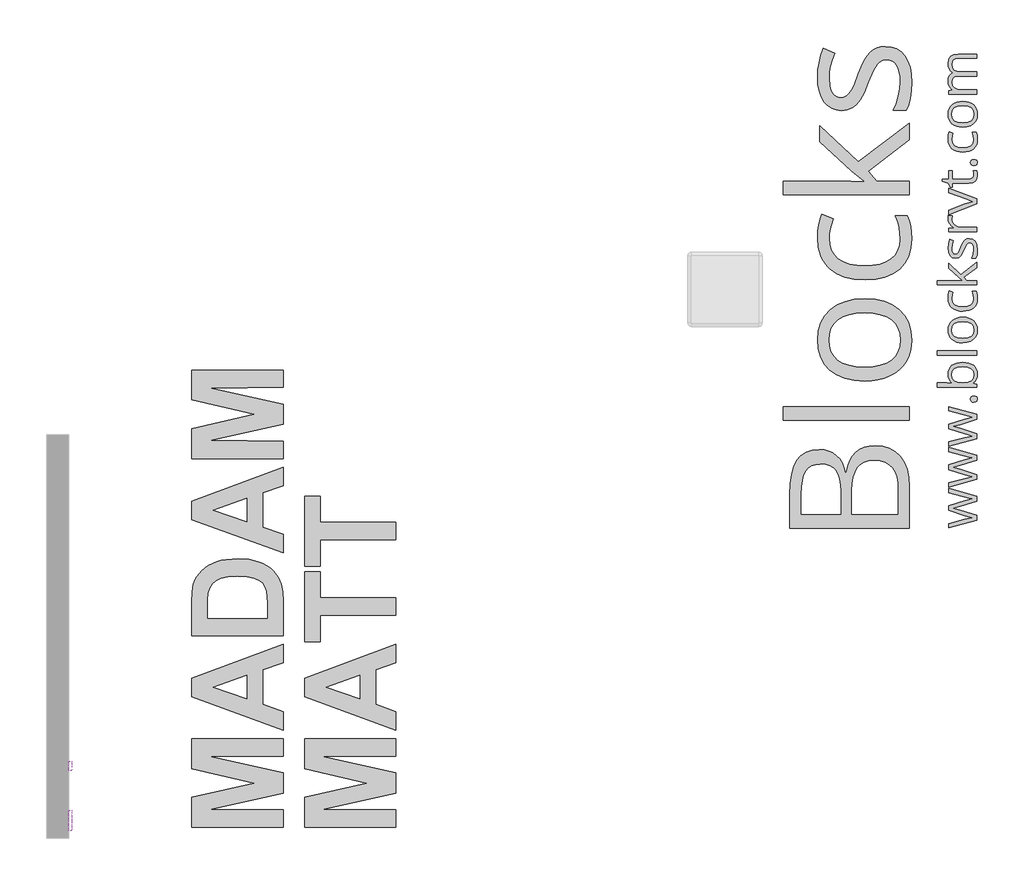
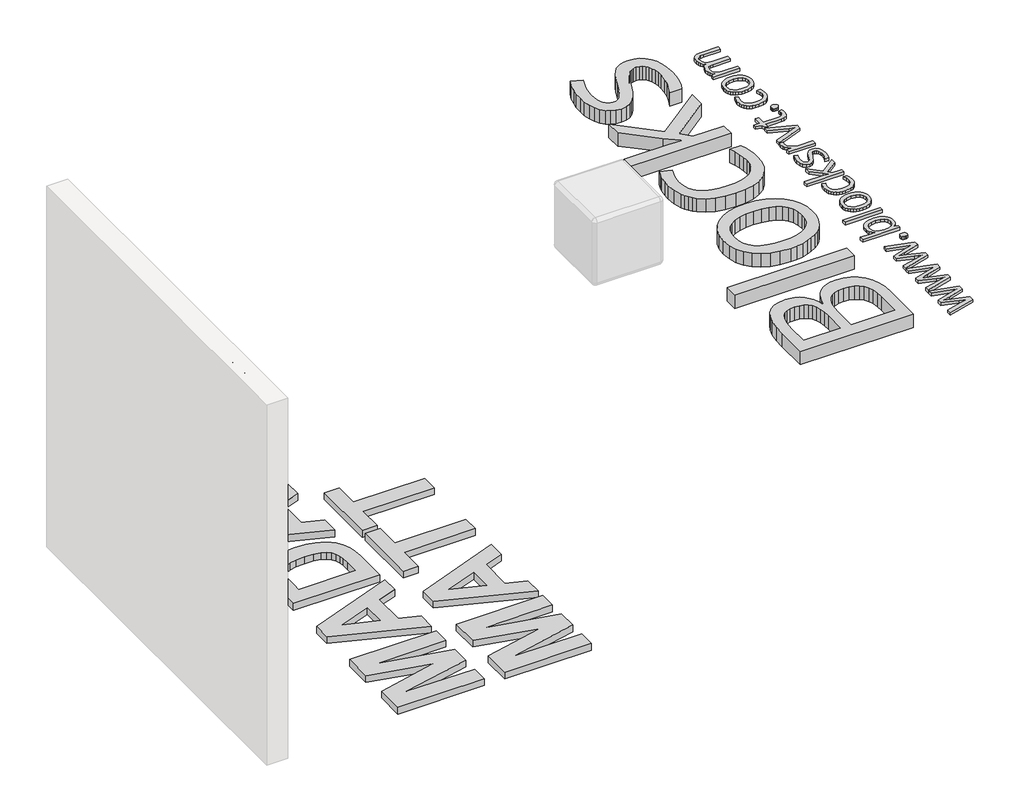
# One storey, part 7 of 7: 5 proxies.
"""IFC4 building model written with IfcOpenShell, lengths in millimetres."""

import ifcopenshell
import ifcopenshell.guid

model = None  # the IFC model being written
_history = None  # IfcOwnerHistory: only IFC2X3 demands one
_inside = {}  # id of a spatial element -> (the spatial element, [elements in it])
_under = {}  # id of a project, library or spatial element -> (it, [spatial elements below it])
_declared = {}  # id of a project -> (the project, [libraries it declares])
_typed = {}  # id of a type object -> (the type object, [elements of that type])
_made_of = {}  # id of a material, layer set ... -> (it, [elements and type objects made of it])


def new_model(schema):
    """Start an empty IFC model of exactly this schema.

    Asked for "IFC4X3", IfcOpenShell would pick the latest addendum, in which some entities
    have other attributes; the version numbers below select the first issue.
    IFC2X3 requires an IfcOwnerHistory on every rooted entity: one is made here for all.
    """
    global model, _history
    if schema == "IFC4X3":
        model = ifcopenshell.file(schema_version=(4, 3, 0, 0))
    else:
        model = ifcopenshell.file(schema=schema)
    _inside.clear()
    _under.clear()
    _declared.clear()
    _typed.clear()
    _made_of.clear()
    _history = None
    if model.schema == "IFC2X3":
        org = make("IfcOrganization", Name="unknown")
        user = make(
            "IfcPersonAndOrganization",
            ThePerson=make("IfcPerson", FamilyName="unknown"),
            TheOrganization=org,
        )
        app = make(
            "IfcApplication",
            ApplicationDeveloper=org,
            Version="unknown",
            ApplicationFullName="unknown",
            ApplicationIdentifier="unknown",
        )
        _history = make(
            "IfcOwnerHistory",
            OwningUser=user,
            OwningApplication=app,
            ChangeAction="ADDED",
            CreationDate=0,
        )
    return model


def make(cls, **values):
    """One entity of the class cls with the attributes given. An attribute that is None is left unset."""
    return model.create_entity(
        cls, **{name: value for name, value in values.items() if value is not None}
    )


def rooted(cls, **values):
    """An entity with a GlobalId (a new one), such as an element, a storey or a relation."""
    return make(cls, GlobalId=ifcopenshell.guid.new(), OwnerHistory=_history, **values)


def si_unit(unit_type, name, prefix=None):
    """IfcSIUnit, for example si_unit("LENGTHUNIT", "METRE", prefix="MILLI")."""
    return make("IfcSIUnit", UnitType=unit_type, Prefix=prefix, Name=name)


def assignment(units):
    """IfcUnitAssignment: the units of a project."""
    return None if units is None else make("IfcUnitAssignment", Units=units)


def point(xyz):
    """IfcCartesianPoint."""
    return None if xyz is None else make("IfcCartesianPoint", Coordinates=xyz)


def direction(xyz):
    """IfcDirection."""
    return None if xyz is None else make("IfcDirection", DirectionRatios=xyz)


def frame(location, z_axis=None, x_axis=None):
    """IfcAxis2Placement3D, a coordinate frame: its origin and axes. An axis left out is left unset."""
    return make(
        "IfcAxis2Placement3D",
        Location=point(location),
        Axis=direction(z_axis),
        RefDirection=direction(x_axis),
    )


def origin():
    """The frame at (0, 0, 0) with its axes left unset."""
    return frame((0.0, 0.0, 0.0))


def origin_with_axes():
    """The frame at (0, 0, 0) with the z axis (0, 0, 1) and the x axis (1, 0, 0) written out."""
    return frame((0.0, 0.0, 0.0), z_axis=(0.0, 0.0, 1.0), x_axis=(1.0, 0.0, 0.0))


def place(relative_to, where):
    """IfcLocalPlacement: puts the frame where relative to a parent placement (None: the world)."""
    return make(
        "IfcLocalPlacement", PlacementRelTo=relative_to, RelativePlacement=where
    )


def context(
    kind, dimensions, precision=None, world=None, true_north=None, identifier=None
):
    """IfcGeometricRepresentationContext, for example the 3D "Model" context."""
    return make(
        "IfcGeometricRepresentationContext",
        ContextIdentifier=identifier,
        ContextType=kind,
        CoordinateSpaceDimension=dimensions,
        Precision=precision,
        WorldCoordinateSystem=world,
        TrueNorth=true_north,
    )


def project(units=None, contexts=None):
    """IfcProject with its units and contexts."""
    return rooted(
        "IfcProject",
        Name="project",
        RepresentationContexts=contexts,
        UnitsInContext=assignment(units),
    )


def spatial(cls, under=None, at=None, **own):
    """A site, building, storey or space (cls), placed at a placement, below another one or the project."""
    s = rooted(cls, ObjectPlacement=at, **own)
    if under is not None:
        _under.setdefault(under.id(), (under, []))[1].append(s)
    return s


def polyline(points):
    """IfcPolyline through the points."""
    return make("IfcPolyline", Points=[point(p) for p in points])


def outline(outer, holes=None, kind="AREA"):
    """IfcArbitraryClosedProfileDef: a profile drawn as a closed curve; with holes, ...WithVoids."""
    if holes is None:
        return make("IfcArbitraryClosedProfileDef", ProfileType=kind, OuterCurve=outer)
    return make(
        "IfcArbitraryProfileDefWithVoids",
        ProfileType=kind,
        OuterCurve=outer,
        InnerCurves=holes,
    )


def extrude(swept, where, along, depth):
    """IfcExtrudedAreaSolid: the profile swept, set in the frame where, extruded along a direction by depth."""
    return make(
        "IfcExtrudedAreaSolid",
        SweptArea=swept,
        Position=where,
        ExtrudedDirection=direction(along),
        Depth=depth,
    )


def shape(context_of_items, identifier, shape_type, items):
    """IfcShapeRepresentation: the items that make up one representation, for example the "Body"."""
    return make(
        "IfcShapeRepresentation",
        ContextOfItems=context_of_items,
        RepresentationIdentifier=identifier,
        RepresentationType=shape_type,
        Items=items,
    )


def made_of(thing, what):
    """Note that an element or type object is made of a material, layer set ...; save() writes the relation."""
    if what is not None:
        _made_of.setdefault(what.id(), (what, []))[1].append(thing)
    return thing


def element(
    cls,
    number,
    at=None,
    inside=None,
    cuts=None,
    type_object=None,
    material=None,
    context=None,
    identifier="Body",
    shape_type=None,
    held_by="IfcProductDefinitionShape",
    body=None,
    shapes=None,
    **own,
):
    """One element of the class cls, such as IfcWall. Its Tag is "e" and its number.

    at: its placement. inside: the storey or other place that contains it. cuts: it is an
    opening in that element (IfcRelVoidsElement). A single representation is given by context,
    identifier, shape_type and body (its items); several are given by shapes. held_by: the class
    of the entity that holds the representations. save() writes the other relations.
    """
    e = rooted(cls, Tag="e%d" % number, ObjectPlacement=at, **own)
    if body is not None:
        shapes = [shape(context, identifier, shape_type, body)]
    if shapes is not None:
        e.Representation = make(held_by, Representations=shapes)
    if inside is not None:
        _inside.setdefault(inside.id(), (inside, []))[1].append(e)
    if cuts is not None:
        rooted(
            "IfcRelVoidsElement", RelatingBuildingElement=cuts, RelatedOpeningElement=e
        )
    if type_object is not None:
        _typed.setdefault(type_object.id(), (type_object, []))[1].append(e)
    return made_of(e, material)


def aggregate(whole, parts):
    """IfcRelAggregates: a whole, such as a stair, and the parts it consists of."""
    return rooted("IfcRelAggregates", RelatingObject=whole, RelatedObjects=parts)


def save(model, path):
    """Write the relations noted so far, then the file.

    IfcRelAggregates (storeys below a building ...), IfcRelContainedInSpatialStructure (elements
    in a storey), IfcRelDefinesByType, IfcRelAssociatesMaterial and IfcRelDeclares: one each for
    every whole, place, type object, material and project.
    """
    for whole, parts in _under.values():
        aggregate(whole, parts)
    for where, things in _inside.values():
        rooted(
            "IfcRelContainedInSpatialStructure",
            RelatedElements=things,
            RelatingStructure=where,
        )
    for kind, things in _typed.values():
        rooted("IfcRelDefinesByType", RelatedObjects=things, RelatingType=kind)
    for what, things in _made_of.values():
        rooted("IfcRelAssociatesMaterial", RelatedObjects=things, RelatingMaterial=what)
    for by, libraries in _declared.values():
        rooted("IfcRelDeclares", RelatingContext=by, RelatedDefinitions=libraries)
    model.write(path)


model = new_model("IFC4")

# Units and contexts
model_context = context("Model", 3, world=origin())
ifc_project = project(units=[si_unit("LENGTHUNIT", "METRE", prefix="MILLI")], contexts=[model_context])

# Site, building, storey
site = spatial("IfcSite", under=ifc_project)
building = spatial("IfcBuilding", under=site)
storey = spatial("IfcBuildingStorey", under=building, Name="PORTOBELLO - SHOWROOM", Elevation=0.0)

# Proxies
placement = place(None, origin())
element("IfcBuildingElementProxy", 1, Name="10mm Arial", ObjectType="10mm Arial", at=placement, inside=storey, context=model_context, shape_type="SweptSolid", body=[
    extrude(outline(polyline([(10451.9550185, 2553.8086596), (10424.5600726, 2654.2649698), (10437.5095189, 2654.2649698), (10453.402021, 2588.2424144), (10458.3071143, 2567.8617518), (10463.5555641, 2585.8879696), (10483.4702428, 2654.2649698), (10502.1341227, 2654.2649698), (10516.6041478, 2604.6990023), (10527.3708275, 2567.8617518), (10532.128768, 2587.6538032), (10548.168423, 2654.2649698), (10561.1178692, 2654.2649698), (10533.6983979, 2553.8086596), (10520.2829678, 2553.8086596), (10496.1989598, 2631.3091333), (10492.8389709, 2642.1248639), (10489.0620491, 2629.1018413), (10467.1117567, 2553.8086596), (10451.9550185, 2553.8086596)])), frame((40576.625413, 0.0, 0.0), z_axis=(1.0, 0.0, 0.0), x_axis=(0.0, 1.0, 0.0)), (0.0, 0.0, 1.0), 20.0),
    extrude(outline(polyline([(10572.1052782, 2553.8086596), (10572.1052782, 2654.2649698), (10584.6623169, 2654.2649698), (10584.6623169, 2617.3296175), (10594.4541094, 2626.1955735), (10606.5145074, 2629.1508922), (10620.6166506, 2625.9257934), (10629.1760383, 2617.0107864), (10631.7512123, 2600.5051475), (10631.7512123, 2553.8086596), (10619.1941735, 2553.8086596), (10619.1941735, 2599.2052978), (10615.1965225, 2612.4490497), (10603.8657571, 2616.5938535), (10593.5773239, 2613.7979503), (10586.7101934, 2606.2195812), (10584.6623169, 2593.0003548), (10584.6623169, 2553.8086596), (10572.1052782, 2553.8086596)])), frame((40576.625413, 0.0, 0.0), z_axis=(1.0, 0.0, 0.0), x_axis=(0.0, 1.0, 0.0)), (0.0, 0.0, 1.0), 20.0),
    extrude(outline(polyline([(40596.625413, 10661.5741794), (40596.625413, 10649.0171406), (40576.625413, 10649.0171406), (40576.625413, 10661.5741794), (40596.625413, 10661.5741794)])), frame((0.0, 0.0, 2641.707931), z_axis=(0.0, 0.0, 1.0), x_axis=(1.0, 0.0, 0.0)), (0.0, 0.0, 1.0), 12.5570388),
    extrude(outline(polyline([(40596.625413, 10661.5741794), (40596.625413, 10649.0171406), (40576.625413, 10649.0171406), (40576.625413, 10661.5741794), (40596.625413, 10661.5741794)])), frame((0.0, 0.0, 2553.8086596), z_axis=(0.0, 0.0, 1.0), x_axis=(1.0, 0.0, 0.0)), (0.0, 0.0, 1.0), 73.7726028),
    extrude(outline(polyline([(10707.0934449, 2564.2810338), (10708.6630748, 2553.4407776), (10699.2698212, 2552.2390298), (10688.7483961, 2554.3236944), (10683.4999463, 2559.7928734), (10681.9793674, 2574.0421694), (10681.9793674, 2615.0242236), (10672.5615883, 2615.0242236), (10672.5615883, 2627.5812624), (10681.9793674, 2627.5812624), (10681.9793674, 2645.5093783), (10694.5364062, 2652.8915437), (10694.5364062, 2627.5812624), (10707.0934449, 2627.5812624), (10707.0934449, 2615.0242236), (10694.5364062, 2615.0242236), (10694.5364062, 2574.4100514), (10695.1985937, 2567.9353282), (10697.344572, 2565.6421971), (10701.6242659, 2564.7960685), (10707.0934449, 2564.2810338)])), frame((40576.625413, 0.0, 0.0), z_axis=(1.0, 0.0, 0.0), x_axis=(0.0, 1.0, 0.0)), (0.0, 0.0, 1.0), 20.0),
    extrude(outline(polyline([(10771.3011158, 2575.7834775), (10783.6128999, 2574.2138476), (10779.1768562, 2564.93709), (10772.0981935, 2558.0025144), (10762.5363273, 2553.6799009), (10750.6506732, 2552.2390298), (10735.9169992, 2554.7252989), (10724.5801024, 2562.1841064), (10717.3512212, 2574.1310742), (10714.9415942, 2590.0818243), (10717.3757467, 2606.5690691), (10724.6782043, 2618.8992473), (10735.8618169, 2626.587981), (10749.9394346, 2629.1508922), (10763.5786596, 2626.5941124), (10774.4771637, 2618.9237728), (10781.6232715, 2606.61812), (10784.0053074, 2590.1554007), (10783.931731, 2586.7708864), (10727.4986329, 2586.7708864), (10729.6722024, 2577.3715014), (10734.7213828, 2570.4614513), (10742.0085119, 2566.2124142), (10750.8959278, 2564.7960685), (10763.2077119, 2567.4202934), (10771.3011158, 2575.7834775)]), holes=[polyline([(10727.4986329, 2599.3279252), (10771.4482686, 2599.3279252), (10766.420548, 2610.7077415), (10759.0996963, 2615.1223255), (10749.8903837, 2616.5938535), (10734.4270772, 2611.8972267), (10729.5618378, 2606.4065879), (10727.4986329, 2599.3279252)])]), frame((40576.625413, 0.0, 0.0), z_axis=(1.0, 0.0, 0.0), x_axis=(0.0, 1.0, 0.0)), (0.0, 0.0, 1.0), 20.0),
])
element("IfcBuildingElementProxy", 2, Name="10mm Arial Narrow", ObjectType="10mm Arial Narrow", at=placement, inside=storey, context=model_context, shape_type="SweptSolid", body=[
    extrude(outline(polyline([(10826.2917513, 2553.8086596), (10826.2917513, 2654.5272634), (10857.588636, 2654.5272634), (10873.8843375, 2652.6489426), (10885.3573236, 2643.1684995), (10889.6470021, 2626.1493906), (10887.8606937, 2614.0735651), (10882.5017685, 2604.4471713), (10872.7579797, 2598.1459129), (10857.8170804, 2596.0454935), (10836.038713, 2596.0454935), (10836.038713, 2553.8086596), (10826.2917513, 2553.8086596)]), holes=[polyline([(10836.038713, 2607.4169487), (10859.0100679, 2607.4169487), (10874.8742633, 2611.9477629), (10879.9000404, 2625.6163537), (10877.4252259, 2635.7821301), (10871.4475971, 2641.5820799), (10858.7816235, 2643.1558081), (10836.038713, 2643.1558081), (10836.038713, 2607.4169487)])]), frame((40576.625413, 0.0, 0.0), z_axis=(1.0, 0.0, 0.0), x_axis=(0.0, 1.0, 0.0)), (0.0, 0.0, 1.0), 20.0),
    extrude(outline(polyline([(10897.7694701, 2590.3597658), (10899.723939, 2606.9505414), (10905.5873456, 2618.9026262), (10914.4459123, 2626.1271808), (10925.3858615, 2628.5353656), (10936.1988971, 2626.1271808), (10945.0828465, 2618.9026262), (10951.0224012, 2607.1409117), (10953.0022528, 2591.1212472), (10951.0573025, 2573.9593606), (10945.2224514, 2561.8169055), (10936.3734032, 2554.5923509), (10925.3858615, 2552.184166), (10914.5252333, 2554.5986966), (10905.6508024, 2561.8422882), (10899.7398032, 2573.8007187), (10897.7694701, 2590.3597658)]), holes=[polyline([(10907.5164318, 2590.3851485), (10908.8204686, 2577.8333971), (10912.7325792, 2568.9621391), (10918.573776, 2563.6888805), (10925.6650713, 2561.9311277), (10932.3851445, 2563.7047447), (10938.0772178, 2569.0255959), (10941.9607728, 2577.9127181), (10943.2552912, 2590.3851485), (10941.9512543, 2602.8988259), (10938.0391437, 2611.7573926), (10932.197947, 2617.0306511), (10925.1066516, 2618.788404), (10918.3389859, 2617.0211326), (10912.6564311, 2611.7193185), (10908.8014316, 2602.8512333), (10907.5164318, 2590.3851485)])]), frame((40576.625413, 0.0, 0.0), z_axis=(1.0, 0.0, 0.0), x_axis=(0.0, 1.0, 0.0)), (0.0, 0.0, 1.0), 20.0),
    extrude(outline(polyline([(11024.4799716, 2561.9311277), (11026.1044652, 2552.184166), (11018.7434786, 2552.184166), (11010.4687142, 2554.3036225), (11006.1536531, 2560.1035724), (11004.9860483, 2574.7493976), (11004.9860483, 2617.1639104), (10996.8635803, 2617.1639104), (10996.8635803, 2620.4128976), (10995.2390867, 2615.5394168), (10987.6750383, 2617.1639104), (10981.5958786, 2614.8413922), (10977.7250149, 2608.3561091), (10975.7451634, 2592.9488025), (10975.7451634, 2553.8086596), (10965.9982017, 2553.8086596), (10965.9982017, 2626.910872), (10975.7451634, 2626.910872), (10975.7451634, 2617.2146758), (10981.9893107, 2626.3016869), (10988.3857542, 2628.5353656), (10996.8635803, 2626.910872), (11004.9860483, 2626.910872), (11004.9860483, 2643.1558081), (11014.73301, 2651.2782762), (11014.73301, 2626.910872), (11024.4799716, 2626.910872), (11024.4799716, 2617.1639104), (11014.73301, 2617.1639104), (11014.73301, 2572.5157188), (11015.5960222, 2564.5201644), (11020.2156759, 2561.9311277), (11024.4799716, 2561.9311277)])), frame((40576.625413, 0.0, 0.0), z_axis=(1.0, 0.0, 0.0), x_axis=(0.0, 1.0, 0.0)), (0.0, 0.0, 1.0), 20.0),
    extrude(outline(polyline([(11030.9779461, 2590.3597658), (11032.9324149, 2606.9505414), (11038.7958215, 2618.9026262), (11047.6543883, 2626.1271808), (11058.5943374, 2628.5353656), (11069.407373, 2626.1271808), (11078.2913224, 2618.9026262), (11084.2308772, 2607.1409117), (11086.2107288, 2591.1212472), (11084.2657784, 2573.9593606), (11078.4309273, 2561.8169055), (11069.5818791, 2554.5923509), (11058.5943374, 2552.184166), (11047.7337092, 2554.5986966), (11038.8592783, 2561.8422882), (11032.9482791, 2573.8007187), (11030.9779461, 2590.3597658)]), holes=[polyline([(11040.7249077, 2590.3851485), (11042.0289446, 2577.8333971), (11045.9410552, 2568.9621391), (11051.7822519, 2563.6888805), (11058.8735472, 2561.9311277), (11065.5936204, 2563.7047447), (11071.2856937, 2569.0255959), (11075.1692488, 2577.9127181), (11076.4637671, 2590.3851485), (11075.1597302, 2602.8988259), (11071.2476197, 2611.7573926), (11065.4064229, 2617.0306511), (11058.3151276, 2618.788404), (11051.5474618, 2617.0211326), (11045.864907, 2611.7193185), (11042.0099075, 2602.8512333), (11040.7249077, 2590.3851485)])]), frame((40576.625413, 0.0, 0.0), z_axis=(1.0, 0.0, 0.0), x_axis=(0.0, 1.0, 0.0)), (0.0, 0.0, 1.0), 20.0),
    extrude(outline(polyline([(11108.9536393, 2553.8086596), (11099.2066776, 2553.8086596), (11099.2066776, 2654.5272634), (11108.9536393, 2654.5272634), (11108.9536393, 2619.1183792), (11116.3527, 2626.2001561), (11125.5539333, 2628.5353656), (11138.43566, 2624.3345267), (11147.7130415, 2611.6050963), (11151.1904731, 2590.9181855), (11149.2582141, 2574.463842), (11143.4614371, 2562.2611029), (11135.0883148, 2554.7034002), (11125.4270198, 2552.184166), (11116.0861815, 2554.7985854), (11108.9536393, 2562.5656955), (11108.9536393, 2553.8086596)]), holes=[polyline([(11108.9536393, 2590.9181855), (11111.0350217, 2573.6706323), (11116.9238111, 2564.9389791), (11125.3762544, 2561.9311277), (11131.318982, 2563.7206089), (11136.5573393, 2569.0890526), (11141.4435115, 2590.5120621), (11136.7350183, 2611.9477629), (11131.4903153, 2617.0782437), (11125.1731927, 2618.788404), (11119.1955638, 2616.9989227), (11113.9032682, 2611.630479), (11108.9536393, 2590.9181855)])]), frame((40576.625413, 0.0, 0.0), z_axis=(1.0, 0.0, 0.0), x_axis=(0.0, 1.0, 0.0)), (0.0, 0.0, 1.0), 20.0),
    extrude(outline(polyline([(11203.1742686, 2576.5515701), (11212.9212303, 2574.9270765), (11209.2216999, 2565.04051), (11203.402713, 2557.9206591), (11195.6990597, 2553.6182893), (11186.3455301, 2552.184166), (11174.7519761, 2554.5986966), (11165.6078539, 2561.8422882), (11159.6682991, 2573.6484224), (11157.6884475, 2589.7505807), (11159.6778177, 2606.4175044), (11165.645928, 2618.5980336), (11174.6599638, 2626.0510326), (11185.7871104, 2628.5353656), (11196.4700596, 2626.1366993), (11205.217577, 2618.9407003), (11211.052428, 2607.2011957), (11212.9973784, 2591.1720126), (11212.9212303, 2587.9230254), (11167.4354092, 2587.9230254), (11173.4384207, 2568.4798675), (11179.368457, 2563.5683126), (11186.4724437, 2561.9311277), (11196.6509115, 2565.5862383), (11203.1742686, 2576.5515701)]), holes=[polyline([(11168.0953597, 2597.6699871), (11203.1742686, 2597.6699871), (11198.9099729, 2611.9350716), (11193.0846403, 2617.0750709), (11185.8632586, 2618.788404), (11173.6541738, 2613.0772936), (11168.0953597, 2597.6699871)])]), frame((40576.625413, 0.0, 0.0), z_axis=(1.0, 0.0, 0.0), x_axis=(0.0, 1.0, 0.0)), (0.0, 0.0, 1.0), 20.0),
    extrude(outline(polyline([(40596.625413, 11235.6641408), (40596.625413, 11225.9171791), (40576.625413, 11225.9171791), (40576.625413, 11235.6641408), (40596.625413, 11235.6641408)])), frame((0.0, 0.0, 2553.8086596), z_axis=(0.0, 0.0, 1.0), x_axis=(1.0, 0.0, 0.0)), (0.0, 0.0, 1.0), 100.7186038),
    extrude(outline(polyline([(40596.625413, 11261.6560385), (40596.625413, 11251.9090769), (40576.625413, 11251.9090769), (40576.625413, 11261.6560385), (40596.625413, 11261.6560385)])), frame((0.0, 0.0, 2553.8086596), z_axis=(0.0, 0.0, 1.0), x_axis=(1.0, 0.0, 0.0)), (0.0, 0.0, 1.0), 100.7186038),
    extrude(outline(polyline([(11273.0274938, 2590.3597658), (11274.9819627, 2606.9505414), (11280.8453693, 2618.9026262), (11289.703936, 2626.1271808), (11300.6438851, 2628.5353656), (11311.4569207, 2626.1271808), (11320.3408701, 2618.9026262), (11326.2804249, 2607.1409117), (11328.2602765, 2591.1212472), (11326.3153261, 2573.9593606), (11320.4804751, 2561.8169055), (11311.6314269, 2554.5923509), (11300.6438851, 2552.184166), (11289.783257, 2554.5986966), (11280.9088261, 2561.8422882), (11274.9978269, 2573.8007187), (11273.0274938, 2590.3597658)]), holes=[polyline([(11282.7744554, 2590.3851485), (11284.0784923, 2577.8333971), (11287.9906029, 2568.9621391), (11293.8317996, 2563.6888805), (11300.923095, 2561.9311277), (11307.6431681, 2563.7047447), (11313.3352415, 2569.0255959), (11317.2187965, 2577.9127181), (11318.5133148, 2590.3851485), (11317.209278, 2602.8988259), (11313.2971674, 2611.7573926), (11307.4559706, 2617.0306511), (11300.3646753, 2618.788404), (11293.5970095, 2617.0211326), (11287.9144547, 2611.7193185), (11284.0594553, 2602.8512333), (11282.7744554, 2590.3851485)])]), frame((40576.625413, 0.0, 0.0), z_axis=(1.0, 0.0, 0.0), x_axis=(0.0, 1.0, 0.0)), (0.0, 0.0, 1.0), 20.0),
])
element("IfcBuildingElementProxy", 3, Name="25mm OpenSans", ObjectType="25mm OpenSans", at=placement, inside=storey, context=model_context, shape_type="SweptSolid", body=[
    extrude(outline(polyline([(46652.1245054, 12630.1185482), (46542.3128621, 12595.6384418), (46496.5892426, 12583.420491), (46542.6876458, 12570.0032322), (46652.1245054, 12534.4737312), (46652.1245054, 12501.5677166), (46465.0324496, 12450.2223407), (46465.0324496, 12480.0551284), (46572.3705201, 12507.7891271), (46622.0668474, 12518.7328131), (46596.8813783, 12526.1535316), (46572.3705201, 12533.4992934), (46465.0324496, 12567.9793999), (46465.0324496, 12598.8615822), (46572.4454768, 12632.5171643), (46621.7670204, 12645.5596394), (46602.8029618, 12650.6566986), (46465.0324496, 12686.4110698), (46465.0324496, 12715.9440305), (46652.1245054, 12663.9240439), (46652.1245054, 12630.1185482)])), origin_with_axes(), (0.0, 0.0, 1.0), 20.0),
    extrude(outline(polyline([(46652.1245054, 12903.5607836), (46542.3128621, 12869.0806772), (46496.5892426, 12856.8627264), (46542.6876458, 12843.4454676), (46652.1245054, 12807.9159666), (46652.1245054, 12775.009952), (46465.0324496, 12723.6645761), (46465.0324496, 12753.4973639), (46572.3705201, 12781.2313625), (46622.0668474, 12792.1750485), (46596.8813783, 12799.595767), (46572.3705201, 12806.9415288), (46465.0324496, 12841.4216353), (46465.0324496, 12872.3038176), (46572.4454768, 12905.9593997), (46621.7670204, 12919.0018748), (46602.8029618, 12924.098934), (46465.0324496, 12959.8533052), (46465.0324496, 12989.386266), (46652.1245054, 12937.3662793), (46652.1245054, 12903.5607836)])), origin_with_axes(), (0.0, 0.0, 1.0), 20.0),
    extrude(outline(polyline([(46652.1245054, 13177.0030191), (46542.3128621, 13142.5229126), (46496.5892426, 13130.3049619), (46542.6876458, 13116.887703), (46652.1245054, 13081.3582021), (46652.1245054, 13048.4521874), (46465.0324496, 12997.1068115), (46465.0324496, 13026.9395993), (46572.3705201, 13054.6735979), (46622.0668474, 13065.6172839), (46596.8813783, 13073.0380025), (46572.3705201, 13080.3837643), (46465.0324496, 13114.8638707), (46465.0324496, 13145.746053), (46572.4454768, 13179.4016352), (46621.7670204, 13192.4441102), (46602.8029618, 13197.5411694), (46465.0324496, 13233.2955407), (46465.0324496, 13262.8285014), (46652.1245054, 13210.8085147), (46652.1245054, 13177.0030191)])), origin_with_axes(), (0.0, 0.0, 1.0), 20.0),
    extrude(outline(polyline([(46633.0105333, 13291.9866784), (46622.6009143, 13293.2890519), (46615.058391, 13297.1961727), (46610.4766594, 13303.5393879), (46608.9494156, 13312.1500449), (46610.4766594, 13321.013681), (46615.058391, 13327.6660928), (46622.6009143, 13331.8261926), (46633.0105333, 13333.2128926), (46643.2140214, 13331.7980839), (46650.7378055, 13327.5536577), (46655.3757546, 13320.8731371), (46656.9217376, 13312.1500449), (46651.3374595, 13297.72087), (46643.9635889, 13293.4202263), (46633.0105333, 13291.9866784)])), origin_with_axes(), (0.0, 0.0, 1.0), 20.0),
    extrude(outline(polyline([(46460.2352174, 13480.352999), (46461.8350756, 13497.9373848), (46466.6346502, 13513.4370359), (46474.6339412, 13526.8519523), (46485.8329486, 13538.182134), (46499.9552693, 13547.1839716), (46516.7245005, 13553.6138556), (46558.2036937, 13558.7577628), (46599.8234309, 13553.5670076), (46616.7121243, 13547.0785637), (46630.986701, 13537.9947421), (46642.3332795, 13526.6106853), (46650.4379785, 13513.2215352), (46655.3007978, 13497.827292), (46656.9217376, 13480.4279557), (46655.2071019, 13462.78501), (46650.0631947, 13446.7348952), (46641.3588417, 13432.727352), (46628.9628687, 13421.2121208), (46628.9628687, 13419.1133317), (46652.1245054, 13413.1167914), (46652.1245054, 13392.8035113), (46388.2767344, 13392.8035113), (46388.2767344, 13421.137164), (46450.8656232, 13421.137164), (46488.6438268, 13419.7879424), (46476.2150602, 13432.3431986), (46467.3373697, 13445.9478493), (46462.0107555, 13461.9511161), (46460.2352174, 13480.352999)]), holes=[polyline([(46484.2213784, 13476.3802911), (46488.4564349, 13451.1104957), (46501.1616046, 13434.0672039), (46523.89224, 13424.369674), (46558.2036937, 13421.137164), (46592.6556914, 13424.4633699), (46615.658045, 13434.4419877), (46628.6161937, 13451.7476281), (46632.9355766, 13477.0549018), (46628.0914964, 13500.1322122), (46613.5592559, 13516.4446756), (46589.9572483, 13526.1422055), (46557.9038667, 13529.3747155), (46525.4569622, 13526.1422055), (46502.4733478, 13516.4446756), (46488.7843707, 13499.9635595), (46484.2213784, 13476.3802911)])]), origin_with_axes(), (0.0, 0.0, 1.0), 20.0),
    extrude(outline(polyline([(46652.1245054, 13636.0381752), (46652.1245054, 13607.7045225), (46388.2767344, 13607.7045225), (46388.2767344, 13636.0381752), (46652.1245054, 13636.0381752)])), origin_with_axes(), (0.0, 0.0, 1.0), 20.0),
    extrude(outline(polyline([(46558.428564, 13860.9833914), (46580.3557567, 13859.5428163), (46599.7391046, 13855.221091), (46616.5786076, 13848.0182155), (46630.8742659, 13837.9341898), (46642.2700348, 13825.3156889), (46650.4098697, 13810.5093877), (46655.2937706, 13793.5152864), (46656.9217376, 13774.3333848), (46653.9328371, 13750.6376812), (46644.9661355, 13729.771595), (46630.4151558, 13712.5409114), (46610.6734209, 13699.7514154), (46586.4436505, 13691.8247387), (46558.428564, 13689.1825132), (46536.5107409, 13690.6113763), (46517.1555018, 13694.8979656), (46500.3628467, 13702.0422812), (46486.1327756, 13712.0443229), (46474.8025939, 13724.5855247), (46466.7096069, 13739.3473202), (46461.8538148, 13756.3297096), (46460.2352174, 13775.5326928), (46461.8912931, 13794.1289948), (46466.8595204, 13810.7155188), (46475.1398993, 13825.2922649), (46486.7324296, 13837.859233), (46501.1498926, 13847.9760523), (46517.9050693, 13855.2023518), (46536.9979598, 13859.5381315), (46558.428564, 13860.9833914)]), holes=[polyline([(46558.2036937, 13718.6405172), (46590.3601408, 13722.2197021), (46613.8216045, 13732.957257), (46628.1570836, 13750.6283116), (46632.9355766, 13775.0079955), (46628.1758228, 13799.4064187), (46613.8965613, 13817.1336908), (46590.4538368, 13827.9274632), (46558.2036937, 13831.5253874), (46526.2814865, 13827.9274632), (46503.0730018, 13817.1336908), (46488.9342842, 13799.3127227), (46484.2213784, 13774.6332118), (46488.8686971, 13750.3003758), (46502.8106532, 13732.7698651), (46525.9535507, 13722.1728542), (46558.2036937, 13718.6405172)])]), origin_with_axes(), (0.0, 0.0, 1.0), 20.0),
    extrude(outline(polyline([(46656.9217376, 13986.3860394), (46655.3359338, 13967.0425123), (46650.5785224, 13950.0132749), (46642.6495033, 13935.2983273), (46631.5488767, 13922.8976695), (46617.5483606, 13913.0595956), (46600.9196734, 13906.0324), (46559.7777855, 13900.4106435), (46537.3305804, 13901.8371642), (46517.5865031, 13906.1167264), (46500.5455538, 13913.2493299), (46486.2077323, 13923.2349749), (46474.844757, 13935.8581606), (46466.7283461, 13950.9033864), (46461.8584996, 13968.3706522), (46460.2352174, 13988.2599582), (46463.0086172, 14015.506738), (46469.5298548, 14036.8319342), (46492.9913185, 14028.0619941), (46486.7324296, 14007.3364519), (46484.2213784, 13987.5103907), (46488.9108603, 13962.292128), (46502.9793059, 13944.2790833), (46526.4267152, 13933.4712565), (46559.2530883, 13929.8686475), (46590.7161854, 13933.3822453), (46613.8965613, 13943.9230387), (46628.1758228, 13961.3598534), (46632.9355766, 13985.5615151), (46630.4057862, 14009.5289369), (46622.8164149, 14034.0585344), (46647.4771867, 14034.0585344), (46654.5605999, 14012.6583813), (46656.9217376, 13986.3860394)])), origin_with_axes(), (0.0, 0.0, 1.0), 20.0),
    extrude(outline(polyline([(46558.2786505, 14105.6422336), (46530.3947383, 14128.5040433), (46465.0324496, 14188.4694458), (46465.0324496, 14221.8252009), (46544.7864349, 14146.5686208), (46652.1245054, 14227.0721737), (46652.1245054, 14192.966851), (46565.7743258, 14127.379692), (46583.7639465, 14106.3918011), (46652.1245054, 14106.3918011), (46652.1245054, 14078.3579755), (46388.2767344, 14078.3579755), (46388.2767344, 14106.3918011), (46529.270387, 14106.3918011), (46558.2786505, 14105.6422336)])), origin_with_axes(), (0.0, 0.0, 1.0), 20.0),
    extrude(outline(polyline([(46601.6786105, 14387.3297119), (46625.1681831, 14382.4294141), (46642.5675194, 14367.7285209), (46653.333183, 14344.1827308), (46656.9217376, 14312.7477425), (46653.9609458, 14279.4482049), (46645.0785706, 14254.3564318), (46618.54388, 14254.3564318), (46629.0753038, 14283.5146088), (46632.9355766, 14313.49731), (46631.1553537, 14333.3140016), (46625.814685, 14347.9399381), (46616.8198747, 14356.9628573), (46604.0772266, 14359.970497), (46593.7894123, 14357.5812505), (46585.1131681, 14350.4135109), (46566.5238933, 14313.197483), (46549.2838401, 14275.7940632), (46532.6059625, 14259.2660991), (46510.2313717, 14253.8317345), (46489.5058295, 14258.5165316), (46473.6524762, 14272.5709228), (46463.5895321, 14294.7956001), (46460.2352174, 14323.9912555), (46463.3459226, 14354.0301743), (46472.6780384, 14383.4319607), (46495.8396751, 14373.2378423), (46487.1259526, 14346.1784544), (46484.2213784, 14321.8175096), (46485.823579, 14303.9965416), (46490.6301808, 14291.1601976), (46498.2664, 14283.4021736), (46508.3574529, 14280.8161657), (46521.3624496, 14284.6764385), (46531.556568, 14297.1567378), (46545.6109592, 14330.212666), (46557.9413451, 14358.2933396), (46570.3466877, 14375.5240232), (46584.4010789, 14384.3782897), (46601.6786105, 14387.3297119)])), origin_with_axes(), (0.0, 0.0, 1.0), 20.0),
    extrude(outline(polyline([(46460.2352174, 14519.7782946), (46462.1091362, 14542.4152341), (46486.769908, 14538.4425262), (46484.2213784, 14517.7544623), (46488.915545, 14496.4198965), (46502.998045, 14478.4396453), (46524.0890015, 14466.2123249), (46549.8085374, 14462.1365515), (46652.1245054, 14462.1365515), (46652.1245054, 14433.8028988), (46465.0324496, 14433.8028988), (46465.0324496, 14457.1894058), (46498.613075, 14460.4125462), (46482.291242, 14473.3988036), (46470.2044655, 14487.172107), (46462.7275294, 14502.7443725), (46460.2352174, 14519.7782946)])), origin_with_axes(), (0.0, 0.0, 1.0), 20.0),
    extrude(outline(polyline([(46652.1245054, 14619.3958196), (46465.0324496, 14547.4373366), (46465.0324496, 14578.2445621), (46575.9684442, 14619.0959925), (46626.4892958, 14635.2866512), (46589.0109193, 14648.70391), (46465.0324496, 14694.1277024), (46465.0324496, 14724.934928), (46652.1245054, 14652.976445), (46652.1245054, 14619.3958196)])), origin_with_axes(), (0.0, 0.0, 1.0), 20.0),
    extrude(outline(polyline([(46632.9355766, 14816.30721), (46631.8112253, 14830.9987336), (46629.487566, 14842.2422466), (46651.6747649, 14842.2422466), (46655.4226025, 14828.5251608), (46656.9217376, 14812.2595454), (46653.3612918, 14788.2546452), (46642.6799545, 14771.1082879), (46624.8777256, 14760.8204735), (46599.9546052, 14757.3912021), (46489.0186106, 14757.3912021), (46489.0186106, 14730.2568574), (46475.0016977, 14730.2568574), (46462.8587037, 14757.2412886), (46421.8573598, 14769.3093258), (46421.8573598, 14785.7998115), (46465.0324496, 14785.7998115), (46465.0324496, 14840.8930251), (46489.0186106, 14840.8930251), (46489.0186106, 14785.7998115), (46598.2305999, 14785.7998115), (46613.0626674, 14787.8330134), (46623.9782446, 14793.9326192), (46630.6962436, 14803.5926708), (46632.9355766, 14816.30721)])), origin_with_axes(), (0.0, 0.0, 1.0), 20.0),
    extrude(outline(polyline([(46633.0105333, 14875.0733045), (46622.6009143, 14876.3756781), (46615.058391, 14880.2827988), (46610.4766594, 14886.6260141), (46608.9494156, 14895.2366711), (46610.4766594, 14904.1003071), (46615.058391, 14910.752719), (46622.6009143, 14914.9128188), (46633.0105333, 14916.2995187), (46643.2140214, 14914.88471), (46650.7378055, 14910.6402838), (46655.3757546, 14903.9597632), (46656.9217376, 14895.2366711), (46651.3374595, 14880.8074961), (46643.9635889, 14876.5068524), (46633.0105333, 14875.0733045)])), origin_with_axes(), (0.0, 0.0, 1.0), 20.0),
    extrude(outline(polyline([(46656.9217376, 15051.3715879), (46655.3359338, 15032.0280607), (46650.5785224, 15014.9988234), (46642.6495033, 15000.2838758), (46631.5488767, 14987.883218), (46617.5483606, 14978.0451441), (46600.9196734, 14971.0179485), (46559.7777855, 14965.396192), (46537.3305804, 14966.8227127), (46517.5865031, 14971.1022748), (46500.5455538, 14978.2348784), (46486.2077323, 14988.2205233), (46474.844757, 15000.843709), (46466.7283461, 15015.8889348), (46461.8584996, 15033.3562007), (46460.2352174, 15053.2455067), (46463.0086172, 15080.4922864), (46469.5298548, 15101.8174827), (46492.9913185, 15093.0475426), (46486.7324296, 15072.3220004), (46484.2213784, 15052.4959391), (46488.9108603, 15027.2776765), (46502.9793059, 15009.2646318), (46526.4267152, 14998.4568049), (46559.2530883, 14994.854196), (46590.7161854, 14998.3677938), (46613.8965613, 15008.9085872), (46628.1758228, 15026.3454019), (46632.9355766, 15050.5470636), (46630.4057862, 15074.5144854), (46622.8164149, 15099.0440828), (46647.4771867, 15099.0440828), (46654.5605999, 15077.6439298), (46656.9217376, 15051.3715879)])), origin_with_axes(), (0.0, 0.0, 1.0), 20.0),
    extrude(outline(polyline([(46558.428564, 15304.9502837), (46580.3557567, 15303.5097086), (46599.7391046, 15299.1879833), (46616.5786076, 15291.9851078), (46630.8742659, 15281.9010821), (46642.2700348, 15269.2825812), (46650.4098697, 15254.4762801), (46655.2937706, 15237.4821787), (46656.9217376, 15218.3002771), (46653.9328371, 15194.6045735), (46644.9661355, 15173.7384873), (46630.4151558, 15156.5078037), (46610.6734209, 15143.7183077), (46586.4436505, 15135.7916311), (46558.428564, 15133.1494055), (46536.5107409, 15134.5782686), (46517.1555018, 15138.8648579), (46500.3628467, 15146.0091735), (46486.1327756, 15156.0112152), (46474.8025939, 15168.552417), (46466.7096069, 15183.3142126), (46461.8538148, 15200.2966019), (46460.2352174, 15219.4995851), (46461.8912931, 15238.0958871), (46466.8595204, 15254.6824111), (46475.1398993, 15269.2591572), (46486.7324296, 15281.8261254), (46501.1498926, 15291.9429446), (46517.9050693, 15299.1692441), (46536.9979598, 15303.5050238), (46558.428564, 15304.9502837)]), holes=[polyline([(46558.2036937, 15162.6074095), (46590.3601408, 15166.1865945), (46613.8216045, 15176.9241493), (46628.1570836, 15194.5952039), (46632.9355766, 15218.9748879), (46628.1758228, 15243.373311), (46613.8965613, 15261.1005831), (46590.4538368, 15271.8943556), (46558.2036937, 15275.4922797), (46526.2814865, 15271.8943556), (46503.0730018, 15261.1005831), (46488.9342842, 15243.2796151), (46484.2213784, 15218.6001041), (46488.8686971, 15194.2672681), (46502.8106532, 15176.7367575), (46525.9535507, 15166.1397465), (46558.2036937, 15162.6074095)])]), origin_with_axes(), (0.0, 0.0, 1.0), 20.0),
    extrude(outline(polyline([(46652.1245054, 15593.9835238), (46529.3453438, 15593.9835238), (46509.6036089, 15591.5849077), (46495.5023697, 15584.3890594), (46487.0416262, 15572.1336302), (46484.2213784, 15554.5562716), (46488.0535424, 15531.4883308), (46499.5500344, 15515.3538897), (46519.0106814, 15505.8531213), (46546.7353105, 15502.6861985), (46652.1245054, 15502.6861985), (46652.1245054, 15474.277589), (46529.3453438, 15474.277589), (46509.6036089, 15471.8789729), (46495.5023697, 15464.6831246), (46487.0416262, 15452.3902171), (46484.2213784, 15434.7004234), (46488.2503039, 15411.5200475), (46500.3370803, 15395.4980415), (46521.5873198, 15386.1659257), (46553.1066345, 15383.0552205), (46652.1245054, 15383.0552205), (46652.1245054, 15354.7215678), (46465.0324496, 15354.7215678), (46465.0324496, 15377.8082477), (46489.0186106, 15382.3806097), (46476.9412037, 15393.4648395), (46467.8433278, 15406.4792058), (46462.137245, 15422.0046233), (46460.2352174, 15439.2727853), (46462.2028322, 15459.3705647), (46468.1056765, 15475.664289), (46477.9437503, 15488.1539579), (46491.7170537, 15496.8395717), (46478.6933178, 15508.467238), (46468.7053305, 15522.5122597), (46462.3527457, 15539.5555514), (46460.2352174, 15558.8288066), (46464.3390996, 15586.6846099), (46476.6507463, 15606.5387799), (46497.9946818, 15618.4287949), (46529.1954303, 15622.3921332), (46652.1245054, 15622.3921332), (46652.1245054, 15593.9835238)])), origin_with_axes(), (0.0, 0.0, 1.0), 20.0),
])
element("IfcBuildingElementProxy", 4, Name="600mm Arial", ObjectType="600mm Arial", at=placement, inside=storey, context=model_context, shape_type="SweptSolid", body=[
    extrude(outline(polyline([(42009.9244494, 10446.6476682), (41397.7688094, 10446.6476682), (41397.7688094, 10646.4484673), (41815.285677, 10743.008732), (41397.7688094, 10839.5689966), (41397.7688094, 11039.3697958), (42009.9244494, 11039.3697958), (42009.9244494, 10922.7687215), (41528.0340721, 10917.9103434), (42009.9244494, 10811.3296739), (42009.9244494, 10674.8396143), (41528.0340721, 10568.1071206), (42009.9244494, 10563.2487425), (42009.9244494, 10446.6476682)])), origin_with_axes(), (0.0, 0.0, 1.0), 50.0),
    extrude(outline(polyline([(42009.9244494, 11670.9589481), (42009.9244494, 11548.4367255), (41873.8898627, 11500.4602419), (41873.8898627, 11269.2318094), (42009.9244494, 11221.862623), (42009.9244494, 11097.6703329), (41397.7688094, 11321.1557253), (41397.7688094, 11445.3480153), (42009.9244494, 11670.9589481)]), holes=[polyline([(41767.0055446, 11463.1114603), (41543.5201523, 11384.3146405), (41767.0055446, 11306.580591), (41767.0055446, 11463.1114603)])]), origin_with_axes(), (0.0, 0.0, 1.0), 50.0),
    extrude(outline(polyline([(41397.7688094, 11729.2594853), (41397.7688094, 11955.9331883), (41400.6914275, 12023.4950087), (41409.4592817, 12072.8379112), (41418.9625349, 12098.8947593), (41431.5307416, 12123.0158474), (41447.1639015, 12145.2011755), (41465.8620149, 12165.4507436), (41487.2312873, 12183.5795158), (41510.8779244, 12199.4024562), (41565.0032929, 12224.1308415), (41596.0561099, 12232.9319073), (41630.5344631, 12239.2183829), (41709.7677777, 12244.2475633), (41780.0624358, 12239.5410096), (41840.0330404, 12225.4213482), (41871.8402345, 12212.6491277), (41900.4591179, 12197.409762), (41925.8896908, 12179.7032512), (41948.131953, 12159.5295953), (41975.9917149, 12121.6494286), (41997.0193826, 12072.3824382), (42006.6981827, 12024.4439106), (42009.9244494, 11962.6134582), (42009.9244494, 11729.2594853), (41397.7688094, 11729.2594853)]), holes=[polyline([(41504.6531275, 11845.8605596), (41903.0401313, 11845.8605596), (41903.0401313, 11945.1536619), (41901.5978003, 11993.1301456), (41897.2708073, 12025.6205491), (41887.3832488, 12055.2073125), (41872.2957074, 12079.2904446), (41848.9337409, 12098.6670229), (41814.2229067, 12114.134125), (41766.4741595, 12124.268398), (41703.9984537, 12127.6464891), (41642.3957377, 12124.268398), (41596.9623113, 12114.134125), (41563.7127862, 12097.9458574), (41538.6617742, 12076.4057826), (41521.1260657, 12048.9066035), (41510.4224515, 12014.8410227), (41506.0954585, 11973.5827649), (41504.6531275, 11905.6793398), (41504.6531275, 11845.8605596)])]), origin_with_axes(), (0.0, 0.0, 1.0), 50.0),
    extrude(outline(polyline([(42009.9244494, 12856.4032033), (42009.9244494, 12733.8809807), (41873.8898627, 12685.904497), (41873.8898627, 12454.6760646), (42009.9244494, 12407.3068782), (42009.9244494, 12283.1145881), (41397.7688094, 12506.5999805), (41397.7688094, 12630.7922705), (42009.9244494, 12856.4032033)]), holes=[polyline([(41767.0055446, 12648.5557154), (41543.5201523, 12569.7588957), (41767.0055446, 12492.0248462), (41767.0055446, 12648.5557154)])]), origin_with_axes(), (0.0, 0.0, 1.0), 50.0),
    extrude(outline(polyline([(42009.9244494, 12914.7037405), (41397.7688094, 12914.7037405), (41397.7688094, 13114.5045396), (41815.285677, 13211.0648043), (41397.7688094, 13307.6250689), (41397.7688094, 13507.4258681), (42009.9244494, 13507.4258681), (42009.9244494, 13390.8247938), (41528.0340721, 13385.9664157), (42009.9244494, 13279.3857462), (42009.9244494, 13142.8956866), (41528.0340721, 13036.1631928), (42009.9244494, 13031.3048147), (42009.9244494, 12914.7037405)])), origin_with_axes(), (0.0, 0.0, 1.0), 50.0),
    extrude(outline(polyline([(42765.3925484, 10446.6476682), (42153.2369085, 10446.6476682), (42153.2369085, 10646.4484673), (42570.753776, 10743.008732), (42153.2369085, 10839.5689966), (42153.2369085, 11039.3697958), (42765.3925484, 11039.3697958), (42765.3925484, 10922.7687215), (42283.5021711, 10917.9103434), (42765.3925484, 10811.3296739), (42765.3925484, 10674.8396143), (42283.5021711, 10568.1071206), (42765.3925484, 10563.2487425), (42765.3925484, 10446.6476682)])), origin_with_axes(), (0.0, 0.0, 1.0), 50.0),
    extrude(outline(polyline([(42765.3925484, 11670.9589481), (42765.3925484, 11548.4367255), (42629.3579618, 11500.4602419), (42629.3579618, 11269.2318094), (42765.3925484, 11221.862623), (42765.3925484, 11097.6703329), (42153.2369085, 11321.1557253), (42153.2369085, 11445.3480153), (42765.3925484, 11670.9589481)]), holes=[polyline([(42522.4736437, 11463.1114603), (42298.9882513, 11384.3146405), (42522.4736437, 11306.580591), (42522.4736437, 11463.1114603)])]), origin_with_axes(), (0.0, 0.0, 1.0), 50.0),
    extrude(outline(polyline([(42765.3925484, 11865.2940719), (42260.1212265, 11865.2940719), (42260.1212265, 11690.3924605), (42153.2369085, 11690.3924605), (42153.2369085, 12156.7967576), (42260.1212265, 12156.7967576), (42260.1212265, 11981.8951462), (42765.3925484, 11981.8951462), (42765.3925484, 11865.2940719)])), origin_with_axes(), (0.0, 0.0, 1.0), 50.0),
    extrude(outline(polyline([(42765.3925484, 12370.5653938), (42260.1212265, 12370.5653938), (42260.1212265, 12195.6637824), (42153.2369085, 12195.6637824), (42153.2369085, 12662.0680795), (42260.1212265, 12662.0680795), (42260.1212265, 12487.1664681), (42765.3925484, 12487.1664681), (42765.3925484, 12370.5653938)])), origin_with_axes(), (0.0, 0.0, 1.0), 50.0),
])
element("IfcBuildingElementProxy", 5, Name="80mm OpenSans", ObjectType="80mm OpenSans", at=placement, inside=storey, context=model_context, shape_type="SweptSolid", body=[
    extrude(outline(polyline([(45401.9000094, 12449.5037963), (45401.9000094, 12674.4869169), (45404.8369886, 12748.3170148), (45413.6479261, 12811.1653645), (45428.332822, 12863.031966), (45448.8916762, 12903.9168192), (45475.790199, 12934.886551), (45509.4941006, 12957.007788), (45550.0033811, 12970.2805302), (45597.3180405, 12974.7047776), (45630.9768734, 12972.2335087), (45661.5259636, 12964.8197019), (45688.9653112, 12952.4633573), (45713.2949162, 12935.1644749), (45734.0791141, 12913.1333754), (45750.8822404, 12886.5803795), (45763.7042953, 12855.5054874), (45772.5452786, 12819.9086989), (45777.8333434, 12819.9086989), (45787.7484649, 12862.4423167), (45801.7498183, 12899.3047854), (45819.8374036, 12930.4961052), (45842.0112208, 12956.0162758), (45868.2712698, 12975.8652975), (45898.6175508, 12990.0431701), (45933.0500636, 12998.5498936), (45971.5688084, 13001.3854682), (46022.8044476, 12996.8710833), (46068.1060368, 12983.3279287), (46107.473576, 12960.7560044), (46140.9070653, 12929.1553103), (46167.5652215, 12889.457267), (46186.6067616, 12842.593295), (46198.0316857, 12788.5633943), (46201.8399938, 12727.3675649), (46201.8399938, 12449.5037963), (45401.9000094, 12449.5037963)]), holes=[polyline([(45740.3361566, 12542.5256635), (45740.3361566, 12694.4373432), (45738.4057125, 12739.9192073), (45732.6143802, 12778.535601), (45722.9621596, 12810.2865242), (45709.4490509, 12835.1719768), (45691.368977, 12853.9431046), (45668.0158613, 12867.351053), (45639.3897037, 12875.395822), (45605.4905042, 12878.0774117), (45574.2879173, 12875.0878523), (45547.7424329, 12866.1191742), (45525.8540511, 12851.1713774), (45508.6227718, 12830.2444619), (45495.5828847, 12802.8126258), (45486.2686796, 12768.3500671), (45480.6801566, 12726.8567859), (45478.8173156, 12678.3327822), (45478.8173156, 12542.5256635), (45740.3361566, 12542.5256635)]), polyline([(45817.2534628, 12542.5256635), (46124.9226876, 12542.5256635), (46124.9226876, 12708.1382383), (46122.5115103, 12753.2445297), (46115.2779785, 12792.4167711), (46103.2220921, 12825.6549625), (46086.3438512, 12852.9591039), (46064.3427975, 12874.2540807), (46036.9184728, 12889.4647785), (46004.0708771, 12898.5911972), (45965.8000104, 12901.6333367), (45930.105573, 12898.5235941), (45899.4588338, 12889.1943661), (45873.8597928, 12873.6456528), (45853.3084501, 12851.8774543), (45837.5343932, 12823.7695871), (45826.2672096, 12789.2018681), (45819.5068995, 12748.1742971), (45817.2534628, 12700.6868743), (45817.2534628, 12542.5256635)])]), origin_with_axes(), (0.0, 0.0, 1.0), 100.0),
    extrude(outline(polyline([(46201.8399938, 13263.1446758), (46201.8399938, 13172.2861078), (45355.7496257, 13172.2861078), (45355.7496257, 13263.1446758), (46201.8399938, 13263.1446758)])), origin_with_axes(), (0.0, 0.0, 1.0), 100.0),
    extrude(outline(polyline([(45901.3817665, 13984.4847879), (45971.6965031, 13979.8652426), (46033.8537989, 13966.0066069), (46087.8536538, 13942.9088807), (46133.6960678, 13910.5720639), (46170.2392997, 13870.1078522), (46196.3416082, 13822.6279408), (46212.0029933, 13768.1323298), (46217.223455, 13706.6210193), (46214.8273006, 13667.4938466), (46207.6388375, 13630.6351336), (46195.6580657, 13596.0448802), (46178.8849852, 13563.7230864), (46157.6350771, 13534.3157374), (46132.2238225, 13508.4688184), (46102.6512215, 13486.1823294), (46068.917274, 13467.4562703), (46031.5853393, 13452.6286568), (45991.2187764, 13442.0375043), (45947.8175855, 13435.6828128), (45901.3817665, 13433.5645823), (45831.0970756, 13438.1465703), (45769.0299173, 13451.8925342), (45715.1802916, 13474.802474), (45669.5481983, 13506.8763898), (45633.2152872, 13547.0927235), (45607.2632078, 13594.4299172), (45591.6919601, 13648.8879709), (45586.5015443, 13710.4668846), (45591.8121434, 13770.1003312), (45607.7439409, 13823.2889489), (45634.2969368, 13870.0327376), (45671.4711309, 13910.3316974), (45717.7041407, 13942.7736744), (45771.4335832, 13965.9465152), (45832.6594584, 13979.8502197), (45901.3817665, 13984.4847879)]), holes=[polyline([(45900.6606667, 13528.028649), (45955.704614, 13530.898025), (46003.7779303, 13539.5061532), (46044.8806158, 13553.8530336), (46079.0126704, 13573.9386661), (46105.8285672, 13599.5827758), (46124.9827792, 13630.6050878), (46136.4753064, 13667.005602), (46140.3061488, 13708.7843185), (46136.4903293, 13750.5780579), (46125.0428709, 13787.0236409), (46105.9637734, 13818.1210674), (46079.253037, 13843.8703375), (46045.196097, 13864.0611304), (46004.0783886, 13878.4831253), (45955.8999118, 13887.1363222), (45900.6606667, 13890.0207212), (45845.9847808, 13887.1363222), (45798.2945487, 13878.4831253), (45757.5899703, 13864.0611304), (45723.8710458, 13843.8703375), (45697.4232103, 13818.0459528), (45678.5318993, 13786.7231827), (45667.1971127, 13749.9020269), (45663.4188505, 13707.5824856), (45667.1445325, 13665.8413264), (45678.3215785, 13629.553484), (45696.9499886, 13598.7189584), (45723.0297627, 13573.3377496), (45756.4857864, 13553.5150181), (45797.2429449, 13539.3559241), (45845.3012383, 13530.8604677), (45900.6606667, 13528.028649)])]), origin_with_axes(), (0.0, 0.0, 1.0), 100.0),
    extrude(outline(polyline([(46217.223455, 14386.6180793), (46212.1381995, 14324.5884782), (46196.882433, 14269.9801954), (46171.4561555, 14222.7932308), (46135.859367, 14183.0275844), (46090.9633964, 14151.4794706), (46037.6395725, 14128.9451035), (45975.8878954, 14115.4244833), (45905.7083649, 14110.9176099), (45833.7260851, 14115.4920864), (45770.4120252, 14129.2155159), (45715.7661851, 14152.0878985), (45669.7885649, 14184.1092341), (45650.2681694, 14203.3779958), (45633.3504934, 14224.5884687), (45619.0355367, 14247.740653), (45607.3232994, 14272.8345486), (45591.7069831, 14328.8474736), (45586.5015443, 14392.6272438), (45588.7249352, 14436.3439159), (45595.3951078, 14480.0004963), (45605.0698627, 14518.9098367), (45616.3070004, 14548.3847888), (45691.5417405, 14520.2618988), (45671.4711309, 14453.8005389), (45665.4319206, 14419.9388967), (45663.4188505, 14390.223578), (45667.178334, 14346.9012573), (45678.4567847, 14309.3552461), (45697.2542026, 14277.5855443), (45723.5705876, 14251.5921519), (45757.4059397, 14231.3750689), (45798.7602589, 14216.9342954), (45847.6335453, 14208.2698313), (45904.0257989, 14205.3816766), (45957.7927986, 14208.1984724), (46004.9196716, 14216.6488601), (46045.4064177, 14230.7328395), (46079.253037, 14250.4504106), (46105.9637734, 14275.6964132), (46125.0428709, 14306.3656867), (46136.4903293, 14342.4582313), (46140.3061488, 14383.9740469), (46138.2780558, 14422.1773105), (46132.1937767, 14460.8312614), (46122.0533115, 14499.9358997), (46107.8566603, 14539.4912253), (46186.9372657, 14539.4912253), (46200.1874735, 14507.1318742), (46209.6519077, 14470.8665662), (46215.3305682, 14430.6953012), (46217.223455, 14386.6180793)])), origin_with_axes(), (0.0, 0.0, 1.0), 100.0),
    extrude(outline(polyline([(45900.9010333, 14771.2046102), (45811.4846649, 14842.3531184), (45601.8850055, 15034.6463839), (45601.8850055, 15141.6095128), (45857.6350486, 14900.2814646), (46201.8399938, 15158.4351735), (46201.8399938, 15049.0683788), (45924.9376915, 14838.7476197), (45982.6256711, 14771.4449768), (46201.8399938, 14771.4449768), (46201.8399938, 14681.5478752), (45355.7496257, 14681.5478752), (45355.7496257, 14771.4449768), (45807.8791661, 14771.4449768), (45900.9010333, 14766.8780117), (45900.9010333, 14771.2046102)])), origin_with_axes(), (0.0, 0.0, 1.0), 100.0),
    extrude(outline(polyline([(46040.0732842, 15672.3389255), (46080.1769461, 15668.4104341), (46115.3981618, 15656.6249602), (46145.7369313, 15636.9825036), (46171.1932546, 15609.4830643), (46191.3314673, 15574.8928109), (46205.7159049, 15533.9779118), (46214.3465675, 15486.738367), (46217.223455, 15433.1741765), (46214.849835, 15376.492732), (46207.728975, 15326.3913226), (46195.860875, 15282.8699483), (46179.2455351, 15245.9286093), (46094.1557651, 15245.9286093), (46113.2949542, 15291.057435), (46127.9272698, 15339.4312096), (46137.2114291, 15388.4659923), (46140.3061488, 15435.5778424), (46138.8789722, 15469.4319731), (46134.5974425, 15499.1247574), (46127.4615596, 15524.6561953), (46117.4713235, 15546.0262867), (46104.5516198, 15562.9045276), (46088.6273337, 15574.960414), (46069.6984654, 15582.1939458), (46047.7650148, 15584.6051231), (46030.6238729, 15582.6897019), (46014.7747014, 15576.9434383), (46000.2175003, 15567.3663323), (45986.9522696, 15553.9583839), (45959.430296, 15508.7995124), (45927.3413573, 15434.616376), (45897.6560844, 15362.4463098), (45872.0570435, 15314.6734517), (45846.9086899, 15283.6361168), (45818.575479, 15261.6726204), (45785.6753031, 15248.6026875), (45746.8260544, 15244.2460432), (45711.6423959, 15248.0017711), (45680.3646945, 15259.2689546), (45652.99295, 15278.0475938), (45629.5271624, 15304.3376887), (45610.7034545, 15337.1777729), (45597.2579488, 15375.6063802), (45589.1906454, 15419.6235105), (45586.5015443, 15469.2291638), (45588.9953476, 15517.6480071), (45596.4767574, 15565.5560715), (45608.9457738, 15612.9533568), (45626.4023969, 15659.8398632), (45700.6756706, 15627.1500081), (45684.3758118, 15582.6821904), (45672.7330555, 15540.377672), (45665.7474017, 15500.2364529), (45663.4188505, 15462.2585329), (45668.5566861, 15405.1113781), (45674.9789808, 15382.5319423), (45683.9701932, 15363.948601), (45695.2298653, 15349.4364686), (45708.4575387, 15339.0706598), (45723.6532136, 15332.8511745), (45740.8168898, 15330.7780127), (45763.501486, 15333.8727324), (45782.5204918, 15343.1568916), (45799.2860608, 15359.3515901), (45815.2103469, 15383.1779275), (45834.2293527, 15423.4994216), (45860.279081, 15489.1795901), (45880.0191865, 15538.5523883), (45899.8193837, 15579.2269208), (45919.6796725, 15611.2031877), (45939.600053, 15634.4811888), (45960.8424496, 15651.0439486), (45984.6687871, 15662.8744913), (46011.0790653, 15669.9728169), (46040.0732842, 15672.3389255)])), origin_with_axes(), (0.0, 0.0, 1.0), 100.0),
])

save(model, "model.ifc")
